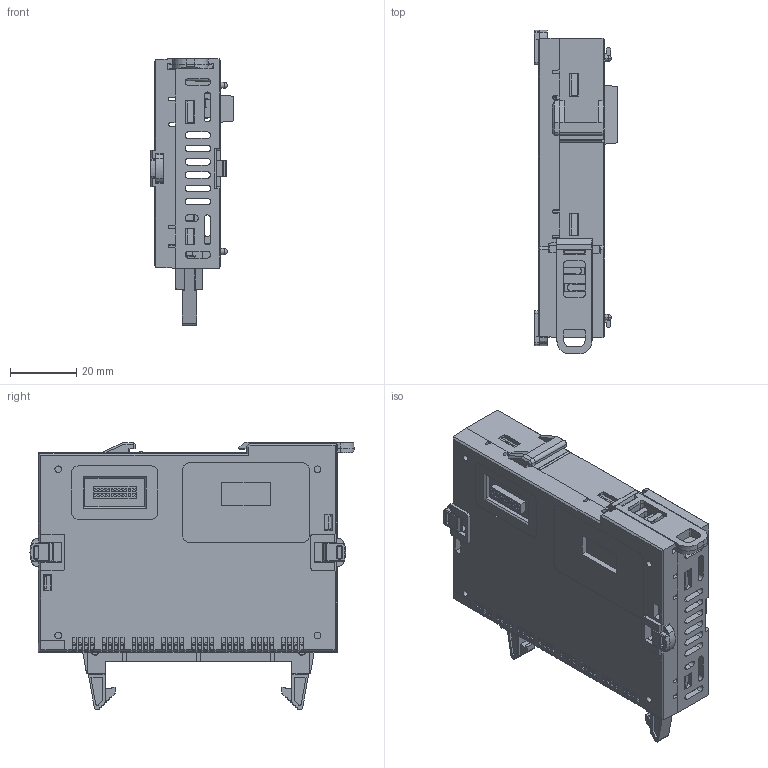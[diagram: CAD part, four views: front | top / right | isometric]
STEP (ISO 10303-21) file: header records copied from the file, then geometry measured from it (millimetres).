
FILE_DESCRIPTION (( 'STEP AP203' ), '1' );
FILE_NAME ('CM3-SP02HSC.STEP', '2025-07-25T02:18:02', ( '' ), ( '' ), 'SwSTEP 2.0', 'SolidWorks 2024', '' );
FILE_SCHEMA (( 'CONFIG_CONTROL_DESIGN' ));
Products named in the file (1): CM3-SP02HSC
Bounding box: 25.25 x 97.5 x 80.6 mm (x, y, z)
Volume: 33488.3 mm3; surface area: 46946.1 mm2
Topology: 1 solids, 4 shells, 4492 faces, 12254 edges, 7833 vertices
Faces by surface type: plane 3967, cylinder 386, cone 60, bspline 55, torus 14, sphere 10
Entity records: 139965 total; most frequent: CARTESIAN_POINT 27082, ORIENTED_EDGE 24496, DIRECTION 21332, EDGE_CURVE 12248, VECTOR 10980, LINE 10980, VERTEX_POINT 7829, AXIS2_PLACEMENT_3D 5176
